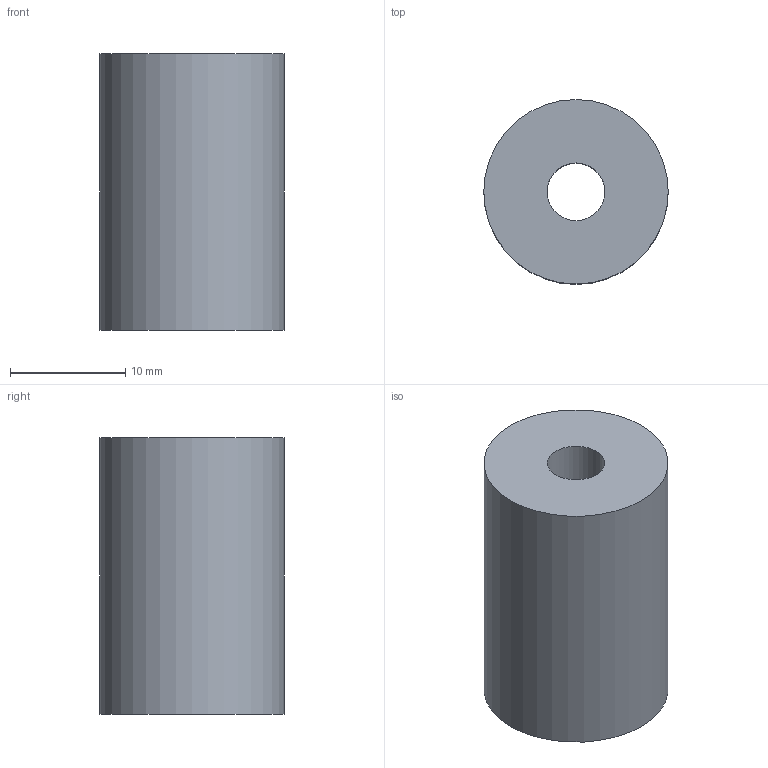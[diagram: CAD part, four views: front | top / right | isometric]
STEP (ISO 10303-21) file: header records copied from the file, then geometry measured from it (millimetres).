
FILE_DESCRIPTION(('Open CASCADE Model'),'2;1');
FILE_NAME('Open CASCADE Shape Model','2026-10-28T05:16:18',('Author'),( 'Open CASCADE'),'Open CASCADE STEP processor 7.8','Open CASCADE 7.8' ,'Unknown');
FILE_SCHEMA(('AUTOMOTIVE_DESIGN { 1 0 10303 214 1 1 1 1 }'));
Length unit declared in the file: millimetre
Products named in the file (1): Open CASCADE STEP translator 7.8 11
Bounding box: 16 x 16 x 24 mm (x, y, z)
Volume: 4354.2 mm3; surface area: 1946.2 mm2
Topology: 1 solids, 1 shells, 4 faces, 6 edges, 4 vertices
Faces by surface type: cylinder 2, plane 2
Full cylindrical faces by diameter (mm): 5 x1, 16 x1
Entity records: 186 total; most frequent: DIRECTION 32, CARTESIAN_POINT 27, ORIENTED_EDGE 12, PCURVE 12, DEFINITIONAL_REPRESENTATION 12, LINE 10, VECTOR 10, AXIS2_PLACEMENT_3D 9
